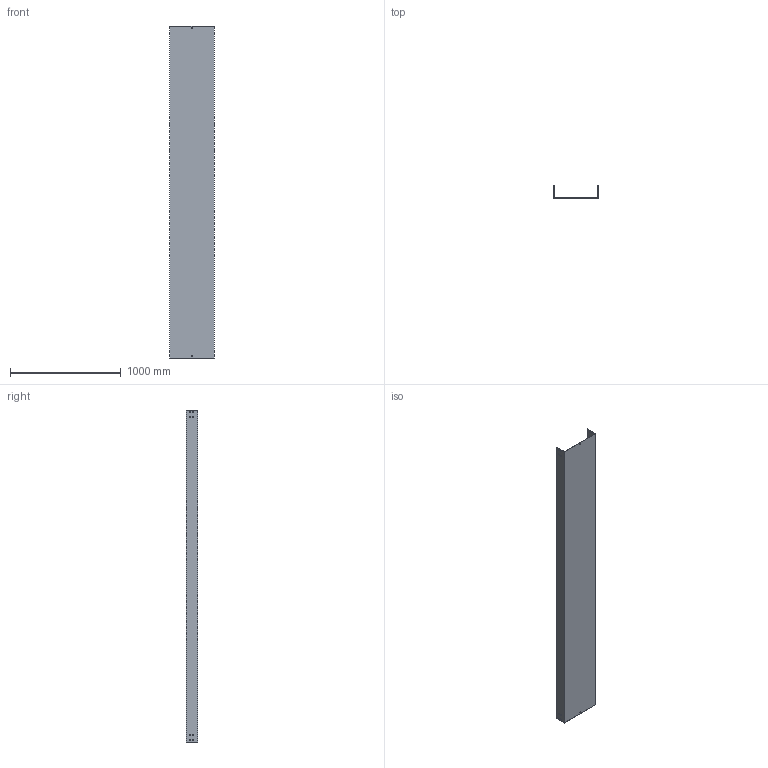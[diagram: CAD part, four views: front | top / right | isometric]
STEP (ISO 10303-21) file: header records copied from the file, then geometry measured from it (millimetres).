
FILE_DESCRIPTION (( 'STEP AP214' ), '1' );
FILE_NAME ('03B3D400.step', '2025-02-21T10:04:12', ( '' ), ( '' ), 'SwSTEP 2.0', 'SolidWorks 2023', '' );
FILE_SCHEMA (( 'AUTOMOTIVE_DESIGN' ));
Length unit declared in the file: millimetre
Products named in the file (1): 03B3D400
Bounding box: 404 x 104 x 3000 mm (x, y, z)
Volume: 6348170.5 mm3; surface area: 3654882 mm2
Topology: 1 solids, 1 shells, 82 faces, 240 edges, 160 vertices
Faces by surface type: plane 82
Entity records: 2759 total; most frequent: CARTESIAN_POINT 483, ORIENTED_EDGE 480, DIRECTION 406, VECTOR 240, EDGE_CURVE 240, LINE 240, VERTEX_POINT 160, EDGE_LOOP 118
